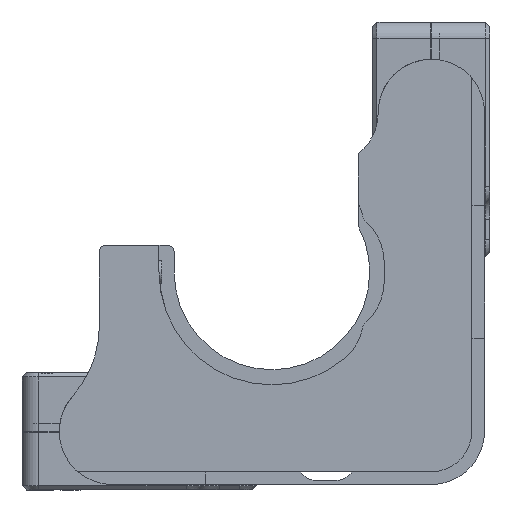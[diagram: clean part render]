
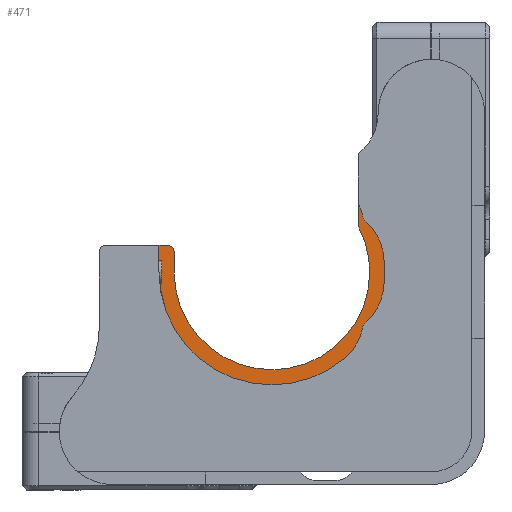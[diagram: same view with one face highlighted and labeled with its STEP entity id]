
A CAD part, left-side view. The second image highlights one B-rep face of the part: STEP entity #471.
In plain terms, the highlighted planar face has unit normal (-1, 0, 0).
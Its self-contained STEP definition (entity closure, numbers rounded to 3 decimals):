
#163 = DIRECTION ( 'NONE',  ( 0., 0., 1. ) ) ;
#173 = CARTESIAN_POINT ( 'NONE',  ( 102.258, 142.014, 133.98 ) ) ;
#304 = CARTESIAN_POINT ( 'NONE',  ( 102.258, 118.215, 139.03 ) ) ;
#471 = ADVANCED_FACE ( 'NONE', ( #10907 ), #20932, .T. ) ;
#658 = CARTESIAN_POINT ( 'NONE',  ( 102.258, 117.238, 124.845 ) ) ;
#758 = EDGE_CURVE ( 'NONE', #16148, #7795, #6604, .T. ) ;
#772 = LINE ( 'NONE', #304, #22677 ) ;
#1034 = AXIS2_PLACEMENT_3D ( 'NONE', #1625, #3350, #7209 ) ;
#1274 = DIRECTION ( 'NONE',  ( -1., 0., 0. ) ) ;
#1625 = CARTESIAN_POINT ( 'NONE',  ( 102.258, 123.931, 136.266 ) ) ;
#1785 = VERTEX_POINT ( 'NONE', #173 ) ;
#1974 = EDGE_CURVE ( 'NONE', #7795, #17608, #25102, .T. ) ;
#2246 = EDGE_CURVE ( 'NONE', #16298, #15719, #13332, .T. ) ;
#2328 = CARTESIAN_POINT ( 'NONE',  ( 102.258, 115.249, 128.436 ) ) ;
#2611 = CARTESIAN_POINT ( 'NONE',  ( 102.258, 128.527, 130.805 ) ) ;
#2875 = CARTESIAN_POINT ( 'NONE',  ( 102.258, 115.249, 133.174 ) ) ;
#2911 = DIRECTION ( 'NONE',  ( -1., 0., 0. ) ) ;
#2957 = ORIENTED_EDGE ( 'NONE', *, *, #18516, .T. ) ;
#3093 = CIRCLE ( 'NONE', #16432, 1.588 ) ;
#3124 = EDGE_CURVE ( 'NONE', #14228, #4620, #21405, .T. ) ;
#3167 = AXIS2_PLACEMENT_3D ( 'NONE', #10539, #24393, #6577 ) ;
#3188 = DIRECTION ( 'NONE',  ( 0., 0., 1. ) ) ;
#3216 = CARTESIAN_POINT ( 'NONE',  ( 102.258, 119.843, 120.486 ) ) ;
#3314 = CIRCLE ( 'NONE', #14147, 6.35 ) ;
#3350 = DIRECTION ( 'NONE',  ( 1., 0., 0. ) ) ;
#3662 = AXIS2_PLACEMENT_3D ( 'NONE', #18947, #2911, #9093 ) ;
#4251 = ORIENTED_EDGE ( 'NONE', *, *, #2246, .T. ) ;
#4620 = VERTEX_POINT ( 'NONE', #2328 ) ;
#4904 = DIRECTION ( 'NONE',  ( -1., 0., 0. ) ) ;
#5278 = ORIENTED_EDGE ( 'NONE', *, *, #24846, .T. ) ;
#5576 = ORIENTED_EDGE ( 'NONE', *, *, #19547, .T. ) ;
#5813 = ORIENTED_EDGE ( 'NONE', *, *, #6869, .F. ) ;
#5863 = DIRECTION ( 'NONE',  ( -1., 0., 0. ) ) ;
#6133 = ORIENTED_EDGE ( 'NONE', *, *, #758, .F. ) ;
#6373 = DIRECTION ( 'NONE',  ( -1., 0., 0. ) ) ;
#6577 = DIRECTION ( 'NONE',  ( 0., 0., -1. ) ) ;
#6604 = CIRCLE ( 'NONE', #1034, 6.35 ) ;
#6869 = EDGE_CURVE ( 'NONE', #1785, #15719, #14056, .T. ) ;
#7209 = DIRECTION ( 'NONE',  ( 0., 0., -1. ) ) ;
#7284 = VERTEX_POINT ( 'NONE', #25276 ) ;
#7345 = DIRECTION ( 'NONE',  ( 1., 0., 0. ) ) ;
#7457 = EDGE_CURVE ( 'NONE', #25364, #14374, #18979, .T. ) ;
#7612 = EDGE_LOOP ( 'NONE', ( #23762, #4251, #5813, #18328, #8826, #22550, #5278, #11364, #23665, #13368, #23783, #6133, #5576, #16697, #2957 ) ) ;
#7795 = VERTEX_POINT ( 'NONE', #8214 ) ;
#7861 = CARTESIAN_POINT ( 'NONE',  ( 102.258, 117.725, 124.003 ) ) ;
#8008 = CARTESIAN_POINT ( 'NONE',  ( 102.258, 140.211, 133.218 ) ) ;
#8128 = EDGE_CURVE ( 'NONE', #17608, #21812, #10007, .T. ) ;
#8214 = CARTESIAN_POINT ( 'NONE',  ( 102.258, 117.725, 137.607 ) ) ;
#8414 = EDGE_CURVE ( 'NONE', #4620, #21812, #13716, .T. ) ;
#8673 = LINE ( 'NONE', #24446, #22594 ) ;
#8761 = DIRECTION ( 'NONE',  ( 0., 0., -1. ) ) ;
#8826 = ORIENTED_EDGE ( 'NONE', *, *, #7457, .T. ) ;
#9093 = DIRECTION ( 'NONE',  ( 0., 0., 1. ) ) ;
#9443 = CARTESIAN_POINT ( 'NONE',  ( 102.258, 140.973, 133.218 ) ) ;
#10007 = CIRCLE ( 'NONE', #10261, 6.35 ) ;
#10261 = AXIS2_PLACEMENT_3D ( 'NONE', #19196, #7345, #21162 ) ;
#10516 = CARTESIAN_POINT ( 'NONE',  ( 102.258, 116.173, 137.943 ) ) ;
#10539 = CARTESIAN_POINT ( 'NONE',  ( 102.258, 128.527, 130.805 ) ) ;
#10601 = DIRECTION ( 'NONE',  ( 0., 0., 1. ) ) ;
#10907 = FACE_OUTER_BOUND ( 'NONE', #7612, .T. ) ;
#11128 = CARTESIAN_POINT ( 'NONE',  ( 102.258, 116.173, 123.668 ) ) ;
#11143 = CIRCLE ( 'NONE', #24683, 11.684 ) ;
#11364 = ORIENTED_EDGE ( 'NONE', *, *, #3124, .T. ) ;
#11542 = DIRECTION ( 'NONE',  ( 0., 0., 1. ) ) ;
#11640 = AXIS2_PLACEMENT_3D ( 'NONE', #10516, #6373, #10601 ) ;
#12029 = CARTESIAN_POINT ( 'NONE',  ( 102.258, 128.527, 130.805 ) ) ;
#12588 = DIRECTION ( 'NONE',  ( -1., 0., 0. ) ) ;
#12911 = EDGE_CURVE ( 'NONE', #14374, #25494, #3314, .T. ) ;
#13120 = DIRECTION ( 'NONE',  ( 0., 0., -1. ) ) ;
#13332 = CIRCLE ( 'NONE', #15603, 0.762 ) ;
#13368 = ORIENTED_EDGE ( 'NONE', *, *, #8128, .F. ) ;
#13390 = CARTESIAN_POINT ( 'NONE',  ( 102.258, 118.215, 139.03 ) ) ;
#13632 = EDGE_CURVE ( 'NONE', #14444, #16298, #17775, .T. ) ;
#13716 = CIRCLE ( 'NONE', #23189, 13.487 ) ;
#13997 = CARTESIAN_POINT ( 'NONE',  ( 102.258, 140.973, 133.98 ) ) ;
#14056 = LINE ( 'NONE', #17428, #20857 ) ;
#14147 = AXIS2_PLACEMENT_3D ( 'NONE', #14900, #4904, #24937 ) ;
#14228 = VERTEX_POINT ( 'NONE', #658 ) ;
#14374 = VERTEX_POINT ( 'NONE', #3216 ) ;
#14444 = VERTEX_POINT ( 'NONE', #21421 ) ;
#14900 = CARTESIAN_POINT ( 'NONE',  ( 102.258, 123.931, 125.344 ) ) ;
#14986 = DIRECTION ( 'NONE',  ( -1., 0., 0. ) ) ;
#15584 = DIRECTION ( 'NONE',  ( 0., -1., 0. ) ) ;
#15586 = CARTESIAN_POINT ( 'NONE',  ( 102.258, 117.238, 136.766 ) ) ;
#15603 = AXIS2_PLACEMENT_3D ( 'NONE', #9443, #1274, #23014 ) ;
#15719 = VERTEX_POINT ( 'NONE', #13997 ) ;
#15722 = EDGE_CURVE ( 'NONE', #22447, #7284, #11143, .T. ) ;
#16148 = VERTEX_POINT ( 'NONE', #13390 ) ;
#16298 = VERTEX_POINT ( 'NONE', #8008 ) ;
#16431 = EDGE_CURVE ( 'NONE', #1785, #25364, #8673, .T. ) ;
#16432 = AXIS2_PLACEMENT_3D ( 'NONE', #11128, #24886, #13120 ) ;
#16697 = ORIENTED_EDGE ( 'NONE', *, *, #15722, .T. ) ;
#17428 = CARTESIAN_POINT ( 'NONE',  ( 102.258, 142.014, 133.98 ) ) ;
#17608 = VERTEX_POINT ( 'NONE', #15586 ) ;
#17690 = CARTESIAN_POINT ( 'NONE',  ( 102.258, 128.527, 130.805 ) ) ;
#17775 = LINE ( 'NONE', #24076, #21775 ) ;
#17986 = DIRECTION ( 'NONE',  ( 1., 0., 0. ) ) ;
#18328 = ORIENTED_EDGE ( 'NONE', *, *, #16431, .T. ) ;
#18516 = EDGE_CURVE ( 'NONE', #7284, #14444, #24929, .T. ) ;
#18886 = CARTESIAN_POINT ( 'NONE',  ( 102.258, 118.215, 136.298 ) ) ;
#18947 = CARTESIAN_POINT ( 'NONE',  ( 102.258, 128.527, 130.805 ) ) ;
#18979 = CIRCLE ( 'NONE', #22003, 13.487 ) ;
#19196 = CARTESIAN_POINT ( 'NONE',  ( 102.258, 121.501, 132.059 ) ) ;
#19465 = CARTESIAN_POINT ( 'NONE',  ( 102.258, 142.014, 130.805 ) ) ;
#19547 = EDGE_CURVE ( 'NONE', #16148, #22447, #772, .T. ) ;
#20857 = VECTOR ( 'NONE', #15584, 1000. ) ;
#20932 = PLANE ( 'NONE',  #3662 ) ;
#21162 = DIRECTION ( 'NONE',  ( 0., 0., -1. ) ) ;
#21405 = CIRCLE ( 'NONE', #25098, 6.35 ) ;
#21421 = CARTESIAN_POINT ( 'NONE',  ( 102.258, 140.211, 130.805 ) ) ;
#21775 = VECTOR ( 'NONE', #163, 1000. ) ;
#21812 = VERTEX_POINT ( 'NONE', #2875 ) ;
#22003 = AXIS2_PLACEMENT_3D ( 'NONE', #17690, #5863, #11542 ) ;
#22098 = DIRECTION ( 'NONE',  ( 0., 0., 1. ) ) ;
#22447 = VERTEX_POINT ( 'NONE', #18886 ) ;
#22550 = ORIENTED_EDGE ( 'NONE', *, *, #12911, .T. ) ;
#22594 = VECTOR ( 'NONE', #8761, 1000. ) ;
#22677 = VECTOR ( 'NONE', #23862, 1000. ) ;
#22945 = CARTESIAN_POINT ( 'NONE',  ( 102.258, 121.501, 129.552 ) ) ;
#23014 = DIRECTION ( 'NONE',  ( 0., 0., 1. ) ) ;
#23189 = AXIS2_PLACEMENT_3D ( 'NONE', #2611, #12588, #22098 ) ;
#23665 = ORIENTED_EDGE ( 'NONE', *, *, #8414, .T. ) ;
#23762 = ORIENTED_EDGE ( 'NONE', *, *, #13632, .T. ) ;
#23783 = ORIENTED_EDGE ( 'NONE', *, *, #1974, .F. ) ;
#23862 = DIRECTION ( 'NONE',  ( 0., 0., -1. ) ) ;
#24076 = CARTESIAN_POINT ( 'NONE',  ( 102.258, 140.211, 130.805 ) ) ;
#24222 = DIRECTION ( 'NONE',  ( 0., 0., -1. ) ) ;
#24393 = DIRECTION ( 'NONE',  ( 1., 0., 0. ) ) ;
#24446 = CARTESIAN_POINT ( 'NONE',  ( 102.258, 142.014, 133.98 ) ) ;
#24683 = AXIS2_PLACEMENT_3D ( 'NONE', #12029, #17986, #24222 ) ;
#24846 = EDGE_CURVE ( 'NONE', #25494, #14228, #3093, .T. ) ;
#24886 = DIRECTION ( 'NONE',  ( 1., 0., 0. ) ) ;
#24929 = CIRCLE ( 'NONE', #3167, 11.684 ) ;
#24937 = DIRECTION ( 'NONE',  ( 0., 0., 1. ) ) ;
#25098 = AXIS2_PLACEMENT_3D ( 'NONE', #22945, #14986, #3188 ) ;
#25102 = CIRCLE ( 'NONE', #11640, 1.587 ) ;
#25276 = CARTESIAN_POINT ( 'NONE',  ( 102.258, 128.527, 119.121 ) ) ;
#25364 = VERTEX_POINT ( 'NONE', #19465 ) ;
#25494 = VERTEX_POINT ( 'NONE', #7861 ) ;
